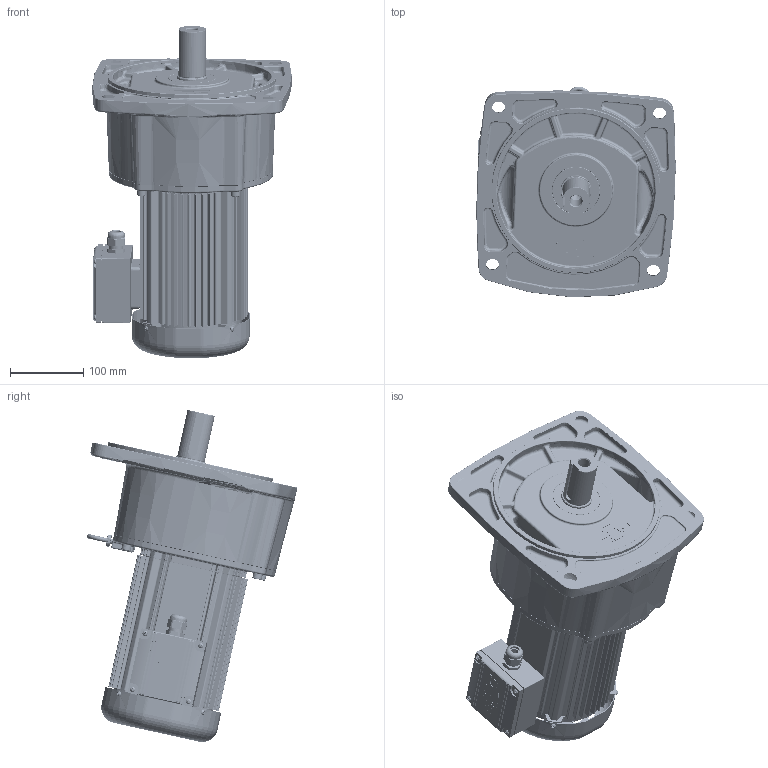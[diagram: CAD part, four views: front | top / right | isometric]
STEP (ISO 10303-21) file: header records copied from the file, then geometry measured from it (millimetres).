
FILE_DESCRIPTION(/* description */ (''),/* implementation_level */ '2;1');
FILE_NAME(/* name */ 'PAF40_0.75kW_3D.stp',/* time_stamp */ '2026-03-18T18:11:16+09:00',/* author */ ('jaebok'),/* organization */ (''),/* preprocessor_version */ 'ST-DEVELOPER v20.1',/* originating_system */ 'Autodesk Inventor 2026',/* authorisation */ '');
FILE_SCHEMA (('AUTOMOTIVE_DESIGN { 1 0 10303 214 3 1 1 }'));
Products named in the file (1): 부품7
Bounding box: 271.27 x 286.81 x 451.89 mm (x, y, z)
Volume: 3684635.9 mm3; surface area: 964326.8 mm2
Topology: 2 solids, 33 shells, 4236 faces, 10586 edges, 6234 vertices
Faces by surface type: bspline 1229, plane 1119, cylinder 1058, torus 428, cone 255, sphere 147
Full cylindrical faces by diameter (mm): 2 x1, 3.25 x1, 3.5 x4, 3.6 x4, 4 x22, 5 x13, 6 x8, 6.8 x5, 7 x13, 8 x15, 9 x4, 10 x1, 12.5 x1, 13 x4, 15 x1, 16 x1, 18 x1, 20 x2, 20.6 x1, 21 x2, 23.6 x1, 25 x1, 28 x1, 30 x1, 35 x1, 36 x1, 38 x1, 39.6 x1, 40 x2, 40.15 x1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
Entity records: 173885 total; most frequent: CARTESIAN_POINT 77048, ORIENTED_EDGE 20572, DIRECTION 17683, EDGE_CURVE 10286, AXIS2_PLACEMENT_3D 7289, VERTEX_POINT 6233, EDGE_LOOP 4463, FACE_OUTER_BOUND 4236
